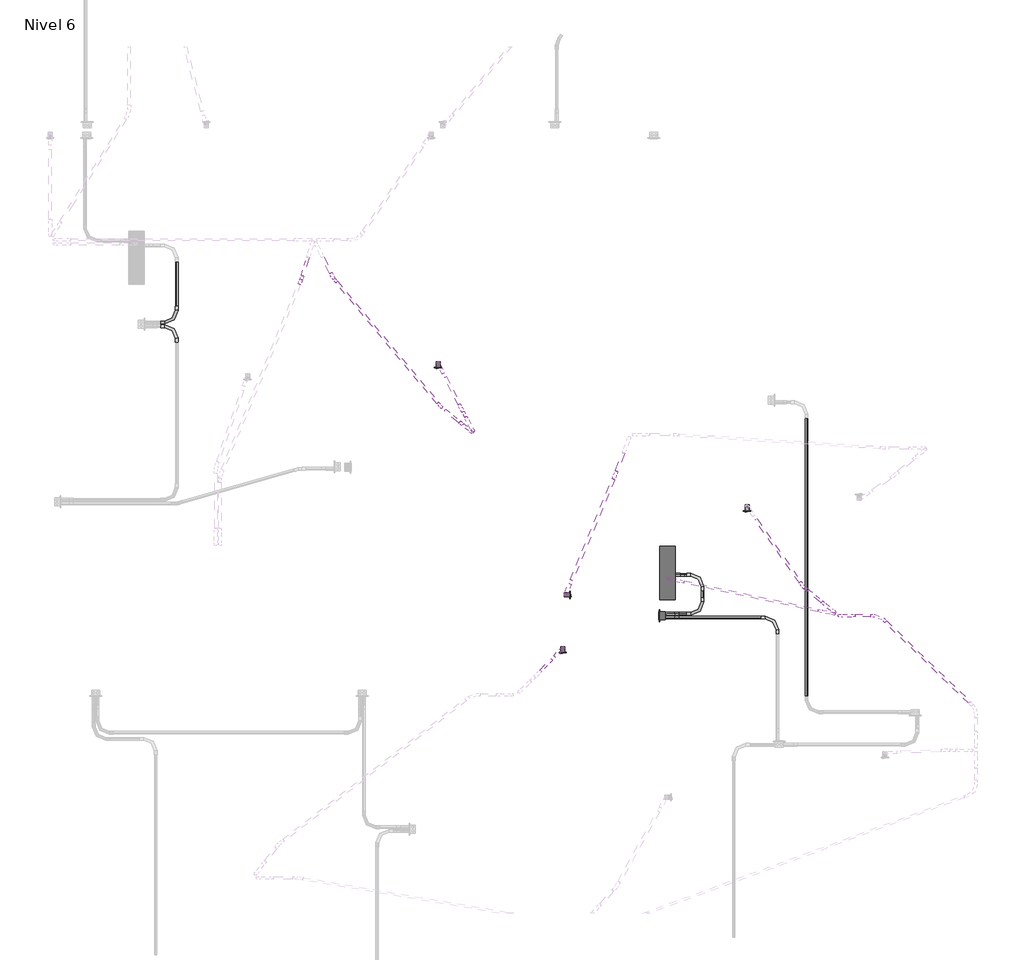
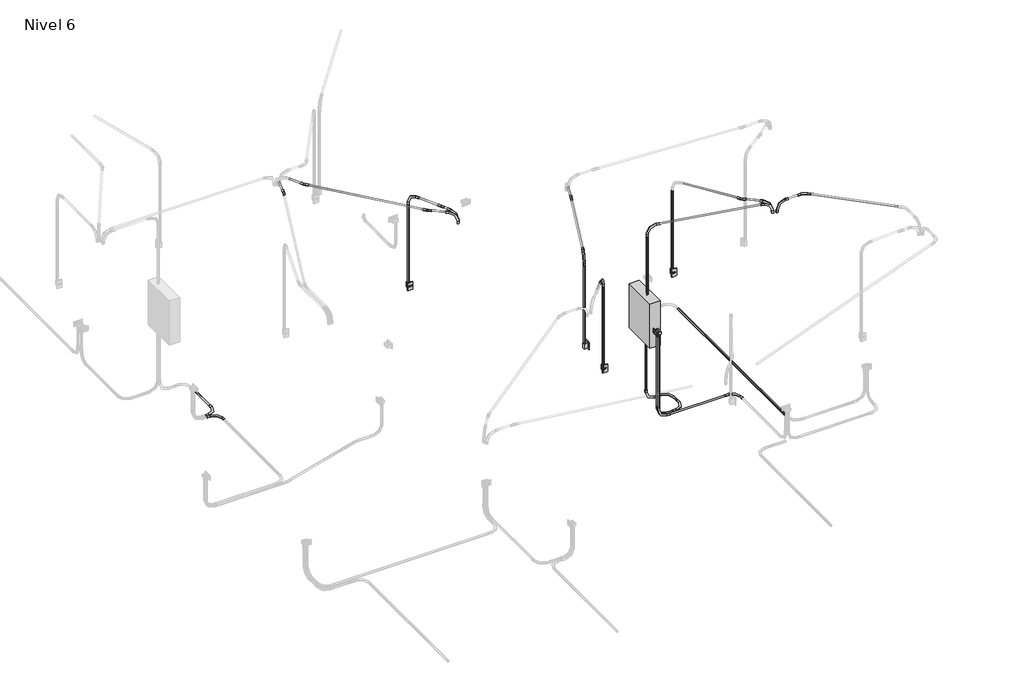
# One storey, part 5 of 9: 28 cable carrier segments, 24 cable carrier fittings, 4 switching devices, 2 proxies.
"""IFC4 building model written with IfcOpenShell, lengths in millimetres."""

from ifc_helpers import new_model, si_unit, point, frame, frame_2d, origin, place, context, project, spatial, circle_curve, trimmed, segment, composite_curve, outline, extrude, transform, mapped, element, save
from components import proxy_125_a_fe578df2, gfci_180f1b41, m_codo_de_tubo_extremo_liso_pvc_9da73e12, m_codo_de_tubo_extremo_liso_pvc_102f0f41, m_codo_de_tubo_extremo_liso_pvc_01378b5f, m_codo_de_tubo_extremo_liso_pvc_49654b31, m_codo_de_tubo_extremo_liso_pvc_d8cff154, m_codo_de_tubo_extremo_liso_pvc_0afefef4, m_codo_de_tubo_extremo_liso_pvc_1dd05dc2, m_codo_de_tubo_extremo_liso_pvc_d3c679f7, m_codo_de_tubo_extremo_liso_pvc_ebb1d42c, switching_device_22fed34b

model = new_model("IFC4")

# Units and contexts
model_context = context("Model", 3, world=origin())
ifc_project = project(units=[si_unit("LENGTHUNIT", "METRE", prefix="MILLI")], contexts=[model_context])

# Site, building, storey
site = spatial("IfcSite", under=ifc_project)
building = spatial("IfcBuilding", under=site)
storey = spatial("IfcBuildingStorey", under=building, Name="Nivel 6", Elevation=13400.0)

# Proxies
placement = place(None, origin())
proxy_125_a_shape = proxy_125_a_fe578df2(model_context)
element("IfcBuildingElementProxy", 1, Name="M_Cuadro de control de accesorios e iluminación - 480V MLO : 125 A", ObjectType="M_Cuadro de control de accesorios e iluminación - 480V MLO : 125 A", at=placement, inside=storey, context=model_context, shape_type="MappedRepresentation", body=[
    mapped(proxy_125_a_shape, transform((5394.6867828, 4905.2233288, 14226.1274047), x_axis=(0.0, 1.0, 0.0), y_axis=(0.0, 0.0, 1.0), z_axis=(1.0, 0.0, 0.0))),
])
gfci_shape = gfci_180f1b41(model_context)
element("IfcBuildingElementProxy", 2, Name="Tomacorriente doble 220V : GFCI", ObjectType="Tomacorriente doble 220V : GFCI", at=placement, inside=storey, context=model_context, shape_type="MappedRepresentation", body=[
    mapped(gfci_shape, transform((5244.6867828, 4499.5952087, 14600.0), x_axis=(0.0, 0.0, 1.0), y_axis=(0.0, 1.0, 0.0), z_axis=(-1.0, 0.0, 0.0))),
])

# Cable carrier fittings
m_codo_de_tubo_extremo_liso_pvc_shape = m_codo_de_tubo_extremo_liso_pvc_9da73e12(model_context)
element("IfcCableCarrierFitting", 3, ObjectType="M_Codo de tubo - Extremo liso - PVC : CODO POTENCIA", at=placement, inside=storey, context=model_context, shape_type="MappedRepresentation", body=[
    mapped(m_codo_de_tubo_extremo_liso_pvc_shape, transform((646.6378129, 7256.5585964, 13330.0), x_axis=(0.0, 1.0, 0.0), y_axis=(-1.0, 0.0, 0.0), z_axis=(0.0, 0.0, 1.0))),
])
element("IfcCableCarrierFitting", 4, ObjectType="M_Codo de tubo - Extremo liso - PVC : CODO POTENCIA", at=placement, inside=storey, context=model_context, shape_type="MappedRepresentation", body=[
    mapped(m_codo_de_tubo_extremo_liso_pvc_shape, transform((646.6378129, 7292.622236, 13330.0), x_axis=(1.0, 0.0, 0.0), y_axis=(0.0, 1.0, 0.0), z_axis=(0.0, 0.0, 1.0))),
])
element("IfcCableCarrierFitting", 5, ObjectType="M_Codo de tubo - Extremo liso - PVC : CODO POTENCIA", at=placement, inside=storey, context=model_context, shape_type="MappedRepresentation", body=[
    mapped(m_codo_de_tubo_extremo_liso_pvc_shape, transform((5274.3238946, 4481.5633889, 13330.0), x_axis=(0.0, 0.0, -1.0), y_axis=(1.0, 0.0, 0.0), z_axis=(0.0, -1.0, 0.0))),
])
element("IfcCableCarrierFitting", 6, ObjectType="M_Codo de tubo - Extremo liso - PVC : CODO POTENCIA", at=placement, inside=storey, context=model_context, shape_type="MappedRepresentation", body=[
    mapped(m_codo_de_tubo_extremo_liso_pvc_shape, transform((5274.3238946, 4517.6270285, 13330.0), x_axis=(0.0, 0.0, -1.0), y_axis=(1.0, 0.0, 0.0), z_axis=(0.0, -1.0, 0.0))),
])
element("IfcCableCarrierFitting", 7, ObjectType="M_Codo de tubo - Extremo liso - PVC : CODO POTENCIA", at=placement, inside=storey, context=model_context, shape_type="MappedRepresentation", body=[
    mapped(m_codo_de_tubo_extremo_liso_pvc_shape, transform((5654.3238946, 4517.6270285, 13330.0), x_axis=(1.0, 0.0, 0.0), y_axis=(0.0, 1.0, 0.0), z_axis=(0.0, 0.0, 1.0))),
])
element("IfcCableCarrierFitting", 8, ObjectType="M_Codo de tubo - Extremo liso - PVC : CODO POTENCIA", at=placement, inside=storey, context=model_context, shape_type="MappedRepresentation", body=[
    mapped(m_codo_de_tubo_extremo_liso_pvc_shape, transform((5654.3238946, 4887.6270285, 13330.0), x_axis=(0.0, 1.0, 0.0), y_axis=(-1.0, 0.0, 0.0), z_axis=(0.0, 0.0, 1.0))),
])
element("IfcCableCarrierFitting", 9, ObjectType="M_Codo de tubo - Extremo liso - PVC : CODO POTENCIA", at=placement, inside=storey, context=model_context, shape_type="MappedRepresentation", body=[
    mapped(m_codo_de_tubo_extremo_liso_pvc_shape, transform((6368.1967084, 4481.5633889, 13330.0), x_axis=(0.0, 1.0, 0.0), y_axis=(-1.0, 0.0, 0.0), z_axis=(0.0, 0.0, 1.0))),
])
element("IfcCableCarrierFitting", 10, ObjectType="M_Codo de tubo - Extremo liso - PVC : CODO POTENCIA", at=placement, inside=storey, context=model_context, shape_type="MappedRepresentation", body=[
    mapped(m_codo_de_tubo_extremo_liso_pvc_shape, transform((5329.3238946, 4887.6270285, 13330.0), x_axis=(-1.0, 0.0, 0.0), y_axis=(0.0, 0.0, 1.0), z_axis=(0.0, 1.0, 0.0))),
])
element("IfcCableCarrierFitting", 11, ObjectType="M_Codo de tubo - Extremo liso - PVC : CODO ILUMINACION", at=placement, inside=storey, context=model_context, shape_type="MappedRepresentation", body=[
    mapped(m_codo_de_tubo_extremo_liso_pvc_shape, transform((6957.7154, 4498.8966653, 15950.0), x_axis=(-1.0, 0.0, 0.0), y_axis=(0.0, 0.0, -1.0), z_axis=(0.0, -1.0, 0.0))),
])
element("IfcCableCarrierFitting", 12, ObjectType="M_Codo de tubo - Extremo liso - PVC : CODO ILUMINACION", at=placement, inside=storey, context=model_context, shape_type="MappedRepresentation", body=[
    mapped(m_codo_de_tubo_extremo_liso_pvc_shape, transform((3135.7051407, 6908.1388757, 15950.0), x_axis=(0.0, 0.0, 1.0), y_axis=(0.4488317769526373, -0.8936162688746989, 0.0), z_axis=(0.8936162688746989, 0.4488317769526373, 0.0))),
])
element("IfcCableCarrierFitting", 13, ObjectType="M_Codo de tubo - Extremo liso - PVC : CODO ILUMINACION", at=placement, inside=storey, context=model_context, shape_type="MappedRepresentation", body=[
    mapped(m_codo_de_tubo_extremo_liso_pvc_shape, transform((4346.8617051, 4696.5871883, 15950.0), x_axis=(0.0, 0.0, 1.0), y_axis=(0.38448172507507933, 0.9231326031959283, 0.0), z_axis=(-0.9231326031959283, 0.38448172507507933, 0.0))),
])
element("IfcCableCarrierFitting", 14, ObjectType="M_Codo de tubo - Extremo liso - PVC : CODO ILUMINACION", at=placement, inside=storey, context=model_context, shape_type="MappedRepresentation", body=[
    mapped(m_codo_de_tubo_extremo_liso_pvc_shape, transform((5327.9299979, 4851.245726, 15950.0), x_axis=(-0.9781476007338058, 0.2079116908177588, 0.0), y_axis=(0.0, 0.0, -1.0), z_axis=(-0.2079116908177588, -0.9781476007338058, 0.0))),
])
element("IfcCableCarrierFitting", 15, ObjectType="M_Codo de tubo - Extremo liso - PVC : CODO ILUMINACION", at=placement, inside=storey, context=model_context, shape_type="MappedRepresentation", body=[
    mapped(m_codo_de_tubo_extremo_liso_pvc_shape, transform((4323.1340933, 4193.1388756, 15950.0), x_axis=(0.0, 0.0, 1.0), y_axis=(-0.6843480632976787, -0.729155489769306, 0.0), z_axis=(0.729155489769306, -0.6843480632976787, 0.0))),
])
m_codo_de_tubo_extremo_liso_pvc_2_shape = m_codo_de_tubo_extremo_liso_pvc_102f0f41(model_context)
element("IfcCableCarrierFitting", 16, ObjectType="M_Codo de tubo - Extremo liso - PVC : CODO ILUMINACION", at=placement, inside=storey, context=model_context, shape_type="MappedRepresentation", body=[
    mapped(m_codo_de_tubo_extremo_liso_pvc_2_shape, transform((3459.9137982, 6247.1868437, 15950.0), x_axis=(0.7763363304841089, -0.6303188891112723, 0.0), y_axis=(0.0, 0.0, 1.0), z_axis=(-0.6303188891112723, -0.7763363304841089, 0.0))),
])
element("IfcCableCarrierFitting", 17, ObjectType="M_Codo de tubo - Extremo liso - PVC : CODO ILUMINACION", at=placement, inside=storey, context=model_context, shape_type="MappedRepresentation", body=[
    mapped(m_codo_de_tubo_extremo_liso_pvc_2_shape, transform((3469.5077333, 6258.1267018, 15950.0), x_axis=(0.46947156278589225, -0.8829475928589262, 0.0), y_axis=(0.0, 0.0, 1.0000000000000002), z_axis=(-0.8829475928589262, -0.46947156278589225, 0.0))),
])
element("IfcCableCarrierFitting", 18, ObjectType="M_Codo de tubo - Extremo liso - PVC : CODO ILUMINACION", at=placement, inside=storey, context=model_context, shape_type="MappedRepresentation", body=[
    mapped(m_codo_de_tubo_extremo_liso_pvc_2_shape, transform((6905.0951894, 4516.0089158, 15950.0), x_axis=(0.9781476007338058, -0.20791169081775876, 0.0), y_axis=(0.0, 0.0, 1.0), z_axis=(-0.20791169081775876, -0.9781476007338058, 0.0))),
])
element("IfcCableCarrierFitting", 19, ObjectType="M_Codo de tubo - Extremo liso - PVC : CODO ILUMINACION", at=placement, inside=storey, context=model_context, shape_type="MappedRepresentation", body=[
    mapped(m_codo_de_tubo_extremo_liso_pvc_2_shape, transform((6910.2839114, 4533.294303, 15950.0), x_axis=(0.7771459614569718, -0.6293203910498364, 0.0), y_axis=(0.0, 0.0, 1.0), z_axis=(-0.6293203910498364, -0.7771459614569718, 0.0))),
])
m_codo_de_tubo_extremo_liso_pvc_3_shape = m_codo_de_tubo_extremo_liso_pvc_01378b5f(model_context)
element("IfcCableCarrierFitting", 20, ObjectType="M_Codo de tubo - Extremo liso - PVC : CODO ILUMINACION", at=placement, inside=storey, context=model_context, shape_type="MappedRepresentation", body=[
    mapped(m_codo_de_tubo_extremo_liso_pvc_3_shape, transform((3164.1296562, 6487.3383404, 15950.0), x_axis=(0.6416802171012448, -0.7669722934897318, 0.0), y_axis=(0.7669722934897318, 0.6416802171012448, 0.0), z_axis=(0.0, 0.0, 1.0))),
])
m_codo_de_tubo_extremo_liso_pvc_4_shape = m_codo_de_tubo_extremo_liso_pvc_49654b31(model_context)
element("IfcCableCarrierFitting", 21, ObjectType="M_Codo de tubo - Extremo liso - PVC : CODO ILUMINACION", at=placement, inside=storey, context=model_context, shape_type="MappedRepresentation", body=[
    mapped(m_codo_de_tubo_extremo_liso_pvc_4_shape, transform((2136.0141424, 7716.1998397, 15950.0), x_axis=(0.4539904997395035, -0.89100652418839, 0.0), y_axis=(0.89100652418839, 0.4539904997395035, 0.0), z_axis=(0.0, 0.0, 1.0))),
])
m_codo_de_tubo_extremo_liso_pvc_5_shape = m_codo_de_tubo_extremo_liso_pvc_d8cff154(model_context)
element("IfcCableCarrierFitting", 22, ObjectType="M_Codo de tubo - Extremo liso - PVC : CODO ILUMINACION", at=placement, inside=storey, context=model_context, shape_type="MappedRepresentation", body=[
    mapped(m_codo_de_tubo_extremo_liso_pvc_5_shape, transform((3353.2431008, 6476.7886731, 15950.0), x_axis=(0.448831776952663, -0.8936162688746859, 0.0), y_axis=(0.8936162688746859, 0.448831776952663, 0.0), z_axis=(0.0, 0.0, 1.0))),
])
m_codo_de_tubo_extremo_liso_pvc_6_shape = m_codo_de_tubo_extremo_liso_pvc_0afefef4(model_context)
element("IfcCableCarrierFitting", 23, ObjectType="M_Codo de tubo - Extremo liso - PVC : CODO ILUMINACION", at=placement, inside=storey, context=model_context, shape_type="MappedRepresentation", body=[
    mapped(m_codo_de_tubo_extremo_liso_pvc_6_shape, transform((1829.9700345, 7695.4571865, 15950.0), x_axis=(0.3825908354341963, 0.9239178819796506, 0.0), y_axis=(-0.9239178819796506, 0.3825908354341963, 0.0), z_axis=(0.0, 0.0, 1.0))),
])
m_codo_de_tubo_extremo_liso_pvc_7_shape = m_codo_de_tubo_extremo_liso_pvc_1dd05dc2(model_context)
element("IfcCableCarrierFitting", 24, ObjectType="M_Codo de tubo - Extremo liso - PVC : CODO ILUMINACION", at=placement, inside=storey, context=model_context, shape_type="MappedRepresentation", body=[
    mapped(m_codo_de_tubo_extremo_liso_pvc_7_shape, transform((4820.8517635, 5836.8610372, 15950.0), x_axis=(0.38448172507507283, 0.923132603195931, 0.0), y_axis=(-0.923132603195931, 0.38448172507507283, 0.0), z_axis=(0.0, 0.0, 1.0))),
])
m_codo_de_tubo_extremo_liso_pvc_8_shape = m_codo_de_tubo_extremo_liso_pvc_d3c679f7(model_context)
element("IfcCableCarrierFitting", 25, ObjectType="M_Codo de tubo - Extremo liso - PVC : CODO ILUMINACION", at=placement, inside=storey, context=model_context, shape_type="MappedRepresentation", body=[
    mapped(m_codo_de_tubo_extremo_liso_pvc_8_shape, transform((6614.1913001, 4773.065372, 15950.0), x_axis=(0.5625711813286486, -0.826748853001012, 0.0), y_axis=(0.826748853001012, 0.5625711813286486, 0.0), z_axis=(0.0, 0.0, 1.0))),
])
m_codo_de_tubo_extremo_liso_pvc_9_shape = m_codo_de_tubo_extremo_liso_pvc_ebb1d42c(model_context)
element("IfcCableCarrierFitting", 26, ObjectType="M_Codo de tubo - Extremo liso - PVC : CODO ILUMINACION", at=placement, inside=storey, context=model_context, shape_type="MappedRepresentation", body=[
    mapped(m_codo_de_tubo_extremo_liso_pvc_9_shape, transform((7338.7154, 4498.8966653, 15950.0), x_axis=(-0.7205826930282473, 0.693369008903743, 0.0), y_axis=(-0.693369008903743, -0.7205826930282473, 0.0), z_axis=(0.0, 0.0, 1.0))),
])

# Cable carrier segments
element("IfcCableCarrierSegment", 27, ObjectType="PVC-SEL, POTENCIA", at=placement, inside=storey, context=model_context, shape_type="SweptSolid", body=[
    extrude(outline(composite_curve([segment(trimmed(circle_curve(frame_2d((13330.0, 646.6378129)), 11.71), [point((13330.0, 658.3478129))], [point((13341.71, 646.6378129))], False, "CARTESIAN"), True, "CONTINUOUS"), segment(trimmed(circle_curve(frame_2d((13330.0, 646.6378129)), 11.71), [point((13341.71, 646.6378129))], [point((13330.0, 634.9278129))], False, "CARTESIAN"), True, "CONTINUOUS"), segment(trimmed(circle_curve(frame_2d((13330.0, 646.6378129)), 11.71), [point((13330.0, 634.9278129))], [point((13318.29, 646.6378129))], False, "CARTESIAN"), True, "CONTINUOUS"), segment(trimmed(circle_curve(frame_2d((13330.0, 646.6378129)), 11.71), [point((13318.29, 646.6378129))], [point((13330.0, 658.3478129))], False, "CARTESIAN"), True, "CONTINUOUS")], self_intersect=False)), frame((0.0, 7445.022236, 0.0), z_axis=(0.0, 1.0, 0.0), x_axis=(0.0, 0.0, 1.0)), (0.0, 0.0, 1.0), 426.9478322),
])
element("IfcCableCarrierSegment", 28, ObjectType="PVC-SEL, POTENCIA", at=placement, inside=storey, context=model_context, shape_type="SweptSolid", body=[
    extrude(outline(composite_curve([segment(trimmed(circle_curve(frame_2d((4481.5633889, 13330.0)), 11.71), [point((4469.8533889, 13330.0))], [point((4481.5633889, 13341.71))], False, "CARTESIAN"), True, "CONTINUOUS"), segment(trimmed(circle_curve(frame_2d((4481.5633889, 13330.0)), 11.71), [point((4481.5633889, 13341.71))], [point((4493.2733889, 13330.0))], False, "CARTESIAN"), True, "CONTINUOUS"), segment(trimmed(circle_curve(frame_2d((4481.5633889, 13330.0)), 11.71), [point((4493.2733889, 13330.0))], [point((4481.5633889, 13318.29))], False, "CARTESIAN"), True, "CONTINUOUS"), segment(trimmed(circle_curve(frame_2d((4481.5633889, 13330.0)), 11.71), [point((4481.5633889, 13318.29))], [point((4469.8533889, 13330.0))], False, "CARTESIAN"), True, "CONTINUOUS")], self_intersect=False)), frame((5426.7238946, 0.0, 0.0), z_axis=(1.0, 0.0, 0.0), x_axis=(0.0, 1.0, 0.0)), (0.0, 0.0, 1.0), 789.0728138),
])
element("IfcCableCarrierSegment", 29, ObjectType="PVC-SEL, POTENCIA", at=placement, inside=storey, context=model_context, shape_type="SweptSolid", body=[
    extrude(outline(composite_curve([segment(trimmed(circle_curve(frame_2d((5274.3238946, 4481.5633889)), 11.71), [point((5286.0338946, 4481.5633889))], [point((5274.3238946, 4469.8533889))], False, "CARTESIAN"), True, "CONTINUOUS"), segment(trimmed(circle_curve(frame_2d((5274.3238946, 4481.5633889)), 11.71), [point((5274.3238946, 4469.8533889))], [point((5262.6138946, 4481.5633889))], False, "CARTESIAN"), True, "CONTINUOUS"), segment(trimmed(circle_curve(frame_2d((5274.3238946, 4481.5633889)), 11.71), [point((5262.6138946, 4481.5633889))], [point((5274.3238946, 4493.2733889))], False, "CARTESIAN"), True, "CONTINUOUS"), segment(trimmed(circle_curve(frame_2d((5274.3238946, 4481.5633889)), 11.71), [point((5274.3238946, 4493.2733889))], [point((5286.0338946, 4481.5633889))], False, "CARTESIAN"), True, "CONTINUOUS")], self_intersect=False)), frame((0.0, 0.0, 13482.4), z_axis=(0.0, 0.0, 1.0), x_axis=(1.0, 0.0, 0.0)), (0.0, 0.0, 1.0), 1097.3020537),
])
element("IfcCableCarrierSegment", 30, ObjectType="PVC-SEL, POTENCIA", at=placement, inside=storey, context=model_context, shape_type="SweptSolid", body=[
    extrude(outline(composite_curve([segment(trimmed(circle_curve(frame_2d((4517.6270285, 13330.0)), 11.71), [point((4505.9170285, 13330.0))], [point((4517.6270285, 13341.71))], False, "CARTESIAN"), True, "CONTINUOUS"), segment(trimmed(circle_curve(frame_2d((4517.6270285, 13330.0)), 11.71), [point((4517.6270285, 13341.71))], [point((4529.3370285, 13330.0))], False, "CARTESIAN"), True, "CONTINUOUS"), segment(trimmed(circle_curve(frame_2d((4517.6270285, 13330.0)), 11.71), [point((4529.3370285, 13330.0))], [point((4517.6270285, 13318.29))], False, "CARTESIAN"), True, "CONTINUOUS"), segment(trimmed(circle_curve(frame_2d((4517.6270285, 13330.0)), 11.71), [point((4517.6270285, 13318.29))], [point((4505.9170285, 13330.0))], False, "CARTESIAN"), True, "CONTINUOUS")], self_intersect=False)), frame((5426.7238946, 0.0, 0.0), z_axis=(1.0, 0.0, 0.0), x_axis=(0.0, 1.0, 0.0)), (0.0, 0.0, 1.0), 75.2),
])
element("IfcCableCarrierSegment", 31, ObjectType="PVC-SEL, POTENCIA", at=placement, inside=storey, context=model_context, shape_type="SweptSolid", body=[
    extrude(outline(composite_curve([segment(trimmed(circle_curve(frame_2d((5274.3238946, 4517.6270285)), 11.71), [point((5286.0338946, 4517.6270285))], [point((5274.3238946, 4505.9170285))], False, "CARTESIAN"), True, "CONTINUOUS"), segment(trimmed(circle_curve(frame_2d((5274.3238946, 4517.6270285)), 11.71), [point((5274.3238946, 4505.9170285))], [point((5262.6138946, 4517.6270285))], False, "CARTESIAN"), True, "CONTINUOUS"), segment(trimmed(circle_curve(frame_2d((5274.3238946, 4517.6270285)), 11.71), [point((5262.6138946, 4517.6270285))], [point((5274.3238946, 4529.3370285))], False, "CARTESIAN"), True, "CONTINUOUS"), segment(trimmed(circle_curve(frame_2d((5274.3238946, 4517.6270285)), 11.71), [point((5274.3238946, 4529.3370285))], [point((5286.0338946, 4517.6270285))], False, "CARTESIAN"), True, "CONTINUOUS")], self_intersect=False)), frame((0.0, 0.0, 13482.4), z_axis=(0.0, 0.0, 1.0), x_axis=(1.0, 0.0, 0.0)), (0.0, 0.0, 1.0), 1097.3020537),
])
element("IfcCableCarrierSegment", 32, ObjectType="PVC-SEL, POTENCIA", at=placement, inside=storey, context=model_context, shape_type="SweptSolid", body=[
    extrude(outline(composite_curve([segment(trimmed(circle_curve(frame_2d((13330.0, 5654.3238946)), 11.71), [point((13330.0, 5666.0338946))], [point((13341.71, 5654.3238946))], False, "CARTESIAN"), True, "CONTINUOUS"), segment(trimmed(circle_curve(frame_2d((13330.0, 5654.3238946)), 11.71), [point((13341.71, 5654.3238946))], [point((13330.0, 5642.6138946))], False, "CARTESIAN"), True, "CONTINUOUS"), segment(trimmed(circle_curve(frame_2d((13330.0, 5654.3238946)), 11.71), [point((13330.0, 5642.6138946))], [point((13318.29, 5654.3238946))], False, "CARTESIAN"), True, "CONTINUOUS"), segment(trimmed(circle_curve(frame_2d((13330.0, 5654.3238946)), 11.71), [point((13318.29, 5654.3238946))], [point((13330.0, 5666.0338946))], False, "CARTESIAN"), True, "CONTINUOUS")], self_intersect=False)), frame((0.0, 4670.0270285, 0.0), z_axis=(0.0, 1.0, 0.0), x_axis=(0.0, 0.0, 1.0)), (0.0, 0.0, 1.0), 65.2),
])
element("IfcCableCarrierSegment", 33, ObjectType="PVC-SEL, POTENCIA", at=placement, inside=storey, context=model_context, shape_type="SweptSolid", body=[
    extrude(outline(composite_curve([segment(trimmed(circle_curve(frame_2d((4887.6270285, 13330.0)), 11.71), [point((4899.3370285, 13330.0))], [point((4887.6270285, 13318.29))], False, "CARTESIAN"), True, "CONTINUOUS"), segment(trimmed(circle_curve(frame_2d((4887.6270285, 13330.0)), 11.71), [point((4887.6270285, 13318.29))], [point((4875.9170285, 13330.0))], False, "CARTESIAN"), True, "CONTINUOUS"), segment(trimmed(circle_curve(frame_2d((4887.6270285, 13330.0)), 11.71), [point((4875.9170285, 13330.0))], [point((4887.6270285, 13341.71))], False, "CARTESIAN"), True, "CONTINUOUS"), segment(trimmed(circle_curve(frame_2d((4887.6270285, 13330.0)), 11.71), [point((4887.6270285, 13341.71))], [point((4899.3370285, 13330.0))], False, "CARTESIAN"), True, "CONTINUOUS")], self_intersect=False)), frame((5481.7238946, 0.0, 0.0), z_axis=(1.0, 0.0, 0.0), x_axis=(0.0, 1.0, 0.0)), (0.0, 0.0, 1.0), 20.2),
])
element("IfcCableCarrierSegment", 34, ObjectType="PVC-SEL, POTENCIA", at=placement, inside=storey, context=model_context, shape_type="SweptSolid", body=[
    extrude(outline(composite_curve([segment(trimmed(circle_curve(frame_2d((13330.0, 6645.3628882)), 11.71), [point((13330.0, 6633.6528882))], [point((13318.29, 6645.3628882))], False, "CARTESIAN"), True, "CONTINUOUS"), segment(trimmed(circle_curve(frame_2d((13330.0, 6645.3628882)), 11.71), [point((13318.29, 6645.3628882))], [point((13330.0, 6657.0728882))], False, "CARTESIAN"), True, "CONTINUOUS"), segment(trimmed(circle_curve(frame_2d((13330.0, 6645.3628882)), 11.71), [point((13330.0, 6657.0728882))], [point((13341.71, 6645.3628882))], False, "CARTESIAN"), True, "CONTINUOUS"), segment(trimmed(circle_curve(frame_2d((13330.0, 6645.3628882)), 11.71), [point((13341.71, 6645.3628882))], [point((13330.0, 6633.6528882))], False, "CARTESIAN"), True, "CONTINUOUS")], self_intersect=False)), frame((0.0, 3731.6981273, 0.0), z_axis=(0.0, 1.0, 0.0), x_axis=(0.0, 0.0, 1.0)), (0.0, 0.0, 1.0), 2648.0757746),
])
element("IfcCableCarrierSegment", 35, ObjectType="PVC-SEL, POTENCIA", at=placement, inside=storey, context=model_context, shape_type="SweptSolid", body=[
    extrude(outline(composite_curve([segment(trimmed(circle_curve(frame_2d((5329.3238946, 4887.6270285)), 11.71), [point((5317.6138946, 4887.6270285))], [point((5329.3238946, 4899.3370285))], False, "CARTESIAN"), True, "CONTINUOUS"), segment(trimmed(circle_curve(frame_2d((5329.3238946, 4887.6270285)), 11.71), [point((5329.3238946, 4899.3370285))], [point((5341.0338946, 4887.6270285))], False, "CARTESIAN"), True, "CONTINUOUS"), segment(trimmed(circle_curve(frame_2d((5329.3238946, 4887.6270285)), 11.71), [point((5341.0338946, 4887.6270285))], [point((5329.3238946, 4875.9170285))], False, "CARTESIAN"), True, "CONTINUOUS"), segment(trimmed(circle_curve(frame_2d((5329.3238946, 4887.6270285)), 11.71), [point((5329.3238946, 4875.9170285))], [point((5317.6138946, 4887.6270285))], False, "CARTESIAN"), True, "CONTINUOUS")], self_intersect=False)), frame((0.0, 0.0, 13482.4), z_axis=(0.0, 0.0, 1.0), x_axis=(1.0, 0.0, 0.0)), (0.0, 0.0, 1.0), 817.6),
])
element("IfcCableCarrierSegment", 36, ObjectType="PVC-SEL ILUMINACION", at=placement, inside=storey, context=model_context, shape_type="SweptSolid", body=[
    extrude(outline(composite_curve([segment(trimmed(circle_curve(frame_2d((0.0, 11.71)), 11.71), [point((11.7099999, 11.71))], [point((0.0, 0.0))], False, "CARTESIAN"), True, "CONTINUOUS"), segment(trimmed(circle_curve(frame_2d((0.0, 11.71)), 11.71), [point((0.0, 0.0))], [point((-11.7100001, 11.71))], False, "CARTESIAN"), True, "CONTINUOUS"), segment(trimmed(circle_curve(frame_2d((0.0, 11.71)), 11.71), [point((-11.7100001, 11.71))], [point((0.0, 23.42))], False, "CARTESIAN"), True, "CONTINUOUS"), segment(trimmed(circle_curve(frame_2d((0.0, 11.71)), 11.71), [point((0.0, 23.42))], [point((11.7099999, 11.71))], False, "CARTESIAN"), True, "CONTINUOUS")], self_intersect=False)), frame((3132.613518, 6525.0082019, 15961.71), z_axis=(-0.6416802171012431, 0.7669722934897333, 0.0), x_axis=(0.7669722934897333, 0.6416802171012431, 0.0)), (0.0, 0.0, 1.0), 1502.069877),
])
element("IfcCableCarrierSegment", 37, ObjectType="PVC-SEL ILUMINACION", at=placement, inside=storey, context=model_context, shape_type="SweptSolid", body=[
    extrude(outline(composite_curve([segment(trimmed(circle_curve(frame_2d((0.0, -11.71)), 11.71), [point((-11.71, -11.71))], [point((0.0, 0.0))], False, "CARTESIAN"), True, "CONTINUOUS"), segment(trimmed(circle_curve(frame_2d((0.0, -11.71)), 11.71), [point((0.0, 0.0))], [point((11.71, -11.71))], False, "CARTESIAN"), True, "CONTINUOUS"), segment(trimmed(circle_curve(frame_2d((0.0, -11.71)), 11.71), [point((11.71, -11.71))], [point((0.0, -23.42))], False, "CARTESIAN"), True, "CONTINUOUS"), segment(trimmed(circle_curve(frame_2d((0.0, -11.71)), 11.71), [point((0.0, -23.42))], [point((-11.71, -11.71))], False, "CARTESIAN"), True, "CONTINUOUS")], self_intersect=False)), frame((2112.8428263, 7761.6761081, 15938.29), z_axis=(-0.4539904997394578, 0.8910065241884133, 0.0), x_axis=(0.8910065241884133, 0.4539904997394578, 0.0)), (0.0, 0.0, 1.0), 171.7686799),
])
element("IfcCableCarrierSegment", 38, ObjectType="PVC-SEL ILUMINACION", at=placement, inside=storey, context=model_context, shape_type="SweptSolid", body=[
    extrude(outline(composite_curve([segment(trimmed(circle_curve(frame_2d((0.0, 11.71)), 11.71), [point((11.71, 11.71))], [point((0.0, 0.0))], False, "CARTESIAN"), True, "CONTINUOUS"), segment(trimmed(circle_curve(frame_2d((0.0, 11.71)), 11.71), [point((0.0, 0.0))], [point((-11.71, 11.71))], False, "CARTESIAN"), True, "CONTINUOUS"), segment(trimmed(circle_curve(frame_2d((0.0, 11.71)), 11.71), [point((-11.71, 11.71))], [point((0.0, 23.42))], False, "CARTESIAN"), True, "CONTINUOUS"), segment(trimmed(circle_curve(frame_2d((0.0, 11.71)), 11.71), [point((0.0, 23.42))], [point((11.71, 11.71))], False, "CARTESIAN"), True, "CONTINUOUS")], self_intersect=False)), frame((3341.6001414, 6343.2474424, 15961.71), z_axis=(-0.7763363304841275, 0.6303188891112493, 0.0), x_axis=(0.6303188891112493, 0.7763363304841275, 0.0)), (0.0, 0.0, 1.0), 179.4849775),
])
element("IfcCableCarrierSegment", 39, ObjectType="PVC-SEL ILUMINACION", at=placement, inside=storey, context=model_context, shape_type="SweptSolid", body=[
    extrude(outline(composite_curve([segment(trimmed(circle_curve(frame_2d((0.0, 11.71)), 11.71), [point((11.7099999, 11.71))], [point((0.0, 0.0))], False, "CARTESIAN"), True, "CONTINUOUS"), segment(trimmed(circle_curve(frame_2d((0.0, 11.71)), 11.71), [point((0.0, 0.0))], [point((-11.71, 11.71))], False, "CARTESIAN"), True, "CONTINUOUS"), segment(trimmed(circle_curve(frame_2d((0.0, 11.71)), 11.71), [point((-11.71, 11.71))], [point((0.0, 23.42))], False, "CARTESIAN"), True, "CONTINUOUS"), segment(trimmed(circle_curve(frame_2d((0.0, 11.71)), 11.71), [point((0.0, 23.42))], [point((11.7099999, 11.71))], False, "CARTESIAN"), True, "CONTINUOUS")], self_intersect=False)), frame((3335.5465992, 6512.0221003, 15961.71), z_axis=(-0.4512592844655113, 0.8923928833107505, 0.0), x_axis=(0.8923928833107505, 0.4512592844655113, 0.0)), (0.0, 0.0, 1.0), 291.2726679),
])
element("IfcCableCarrierSegment", 40, ObjectType="PVC-SEL ILUMINACION", at=placement, inside=storey, context=model_context, shape_type="SweptSolid", body=[
    extrude(outline(composite_curve([segment(trimmed(circle_curve(frame_2d((3135.7051407, 6908.1388757)), 11.71), [point((3123.9951407, 6908.1388757))], [point((3135.7051407, 6919.8488757))], False, "CARTESIAN"), True, "CONTINUOUS"), segment(trimmed(circle_curve(frame_2d((3135.7051407, 6908.1388757)), 11.71), [point((3135.7051407, 6919.8488757))], [point((3147.4151407, 6908.1388757))], False, "CARTESIAN"), True, "CONTINUOUS"), segment(trimmed(circle_curve(frame_2d((3135.7051407, 6908.1388757)), 11.71), [point((3147.4151407, 6908.1388757))], [point((3135.7051407, 6896.4288757))], False, "CARTESIAN"), True, "CONTINUOUS"), segment(trimmed(circle_curve(frame_2d((3135.7051407, 6908.1388757)), 11.71), [point((3135.7051407, 6896.4288757))], [point((3123.9951407, 6908.1388757))], False, "CARTESIAN"), True, "CONTINUOUS")], self_intersect=False)), frame((0.0, 0.0, 14640.2227463), z_axis=(0.0, 0.0, 1.0), x_axis=(1.0, 0.0, 0.0)), (0.0, 0.0, 1.0), 1157.3772537),
])
element("IfcCableCarrierSegment", 41, ObjectType="PVC-SEL ILUMINACION", at=placement, inside=storey, context=model_context, shape_type="SweptSolid", body=[
    extrude(outline(composite_curve([segment(trimmed(circle_curve(frame_2d((0.0, 11.71)), 11.71), [point((11.71, 11.71))], [point((0.0, 0.0))], False, "CARTESIAN"), True, "CONTINUOUS"), segment(trimmed(circle_curve(frame_2d((0.0, 11.71)), 11.71), [point((0.0, 0.0))], [point((-11.71, 11.71))], False, "CARTESIAN"), True, "CONTINUOUS"), segment(trimmed(circle_curve(frame_2d((0.0, 11.71)), 11.71), [point((-11.71, 11.71))], [point((0.0, 23.42))], False, "CARTESIAN"), True, "CONTINUOUS"), segment(trimmed(circle_curve(frame_2d((0.0, 11.71)), 11.71), [point((0.0, 23.42))], [point((11.71, 11.71))], False, "CARTESIAN"), True, "CONTINUOUS")], self_intersect=False)), frame((3397.9602671, 6392.6879149, 15961.71), z_axis=(-0.4694715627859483, 0.8829475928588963, 0.0), x_axis=(0.8829475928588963, 0.4694715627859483, 0.0)), (0.0, 0.0, 1.0), 55.822084),
])
element("IfcCableCarrierSegment", 42, ObjectType="PVC-SEL ILUMINACION", at=placement, inside=storey, context=model_context, shape_type="SweptSolid", body=[
    extrude(outline(composite_curve([segment(trimmed(circle_curve(frame_2d((0.0, -11.71)), 11.71), [point((-11.71, -11.71))], [point((0.0, 0.0))], False, "CARTESIAN"), True, "CONTINUOUS"), segment(trimmed(circle_curve(frame_2d((0.0, -11.71)), 11.71), [point((0.0, 0.0))], [point((11.71, -11.71))], False, "CARTESIAN"), True, "CONTINUOUS"), segment(trimmed(circle_curve(frame_2d((0.0, -11.71)), 11.71), [point((11.71, -11.71))], [point((0.0, -23.42))], False, "CARTESIAN"), True, "CONTINUOUS"), segment(trimmed(circle_curve(frame_2d((0.0, -11.71)), 11.71), [point((0.0, -23.42))], [point((-11.71, -11.71))], False, "CARTESIAN"), True, "CONTINUOUS")], self_intersect=False)), frame((1842.7129037, 7737.1372337, 15938.29), z_axis=(0.2923717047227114, 0.9563047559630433, 0.0), x_axis=(0.9563047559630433, -0.2923717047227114, 0.0)), (0.0, 0.0, 1.0), 185.0155183),
])
element("IfcCableCarrierSegment", 43, ObjectType="PVC-SEL ILUMINACION", at=placement, inside=storey, context=model_context, shape_type="SweptSolid", body=[
    extrude(outline(composite_curve([segment(trimmed(circle_curve(frame_2d((0.0, -11.71)), 11.71), [point((-11.71, -11.71))], [point((0.0, 0.0))], False, "CARTESIAN"), True, "CONTINUOUS"), segment(trimmed(circle_curve(frame_2d((0.0, -11.71)), 11.71), [point((0.0, 0.0))], [point((11.71, -11.71))], False, "CARTESIAN"), True, "CONTINUOUS"), segment(trimmed(circle_curve(frame_2d((0.0, -11.71)), 11.71), [point((11.71, -11.71))], [point((0.0, -23.42))], False, "CARTESIAN"), True, "CONTINUOUS"), segment(trimmed(circle_curve(frame_2d((0.0, -11.71)), 11.71), [point((0.0, -23.42))], [point((-11.71, -11.71))], False, "CARTESIAN"), True, "CONTINUOUS")], self_intersect=False)), frame((4405.45672, 4837.272597, 15938.29), z_axis=(0.38372115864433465, 0.9234490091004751, 0.0), x_axis=(0.9234490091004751, -0.38372115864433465, 0.0)), (0.0, 0.0, 1.0), 1042.5175136),
])
element("IfcCableCarrierSegment", 44, ObjectType="PVC-SEL ILUMINACION", at=placement, inside=storey, context=model_context, shape_type="SweptSolid", body=[
    extrude(outline(composite_curve([segment(trimmed(circle_curve(frame_2d((4346.8617051, 4696.5871883)), 11.71), [point((4335.1517051, 4696.5871883))], [point((4346.8617051, 4708.2971883))], False, "CARTESIAN"), True, "CONTINUOUS"), segment(trimmed(circle_curve(frame_2d((4346.8617051, 4696.5871883)), 11.71), [point((4346.8617051, 4708.2971883))], [point((4358.5717051, 4696.5871883))], False, "CARTESIAN"), True, "CONTINUOUS"), segment(trimmed(circle_curve(frame_2d((4346.8617051, 4696.5871883)), 11.71), [point((4358.5717051, 4696.5871883))], [point((4346.8617051, 4684.8771883))], False, "CARTESIAN"), True, "CONTINUOUS"), segment(trimmed(circle_curve(frame_2d((4346.8617051, 4696.5871883)), 11.71), [point((4346.8617051, 4684.8771883))], [point((4335.1517051, 4696.5871883))], False, "CARTESIAN"), True, "CONTINUOUS")], self_intersect=False)), frame((0.0, 0.0, 14640.2227463), z_axis=(0.0, 0.0, 1.0), x_axis=(1.0, 0.0, 0.0)), (0.0, 0.0, 1.0), 1157.3772537),
])
element("IfcCableCarrierSegment", 45, ObjectType="PVC-SEL ILUMINACION", at=placement, inside=storey, context=model_context, shape_type="SweptSolid", body=[
    extrude(outline(composite_curve([segment(trimmed(circle_curve(frame_2d((0.0, -11.71)), 11.71), [point((-11.7099999, -11.71))], [point((0.0, 0.0))], False, "CARTESIAN"), True, "CONTINUOUS"), segment(trimmed(circle_curve(frame_2d((0.0, -11.71)), 11.71), [point((0.0, 0.0))], [point((11.71, -11.71))], False, "CARTESIAN"), True, "CONTINUOUS"), segment(trimmed(circle_curve(frame_2d((0.0, -11.71)), 11.71), [point((11.71, -11.71))], [point((0.0, -23.42))], False, "CARTESIAN"), True, "CONTINUOUS"), segment(trimmed(circle_curve(frame_2d((0.0, -11.71)), 11.71), [point((0.0, -23.42))], [point((-11.7099999, -11.71))], False, "CARTESIAN"), True, "CONTINUOUS")], self_intersect=False)), frame((4835.0110631, 5874.2147889, 15938.29), z_axis=(0.35444928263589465, 0.935075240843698, 0.0), x_axis=(0.935075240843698, -0.35444928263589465, 0.0)), (0.0, 0.0, 1.0), 188.652678),
])
element("IfcCableCarrierSegment", 46, ObjectType="PVC-SEL ILUMINACION", at=placement, inside=storey, context=model_context, shape_type="SweptSolid", body=[
    extrude(outline(composite_curve([segment(trimmed(circle_curve(frame_2d((0.0, 11.71)), 11.71), [point((11.71, 11.71))], [point((0.0, 0.0))], False, "CARTESIAN"), True, "CONTINUOUS"), segment(trimmed(circle_curve(frame_2d((0.0, 11.71)), 11.71), [point((0.0, 0.0))], [point((-11.71, 11.71))], False, "CARTESIAN"), True, "CONTINUOUS"), segment(trimmed(circle_curve(frame_2d((0.0, 11.71)), 11.71), [point((-11.71, 11.71))], [point((0.0, 23.42))], False, "CARTESIAN"), True, "CONTINUOUS"), segment(trimmed(circle_curve(frame_2d((0.0, 11.71)), 11.71), [point((0.0, 23.42))], [point((11.71, 11.71))], False, "CARTESIAN"), True, "CONTINUOUS")], self_intersect=False)), frame((6756.025495, 4547.6946574, 15961.71), z_axis=(-0.9781476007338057, 0.20791169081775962, 0.0), x_axis=(0.20791169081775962, 0.9781476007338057, 0.0)), (0.0, 0.0, 1.0), 1307.6),
])
element("IfcCableCarrierSegment", 47, ObjectType="PVC-SEL ILUMINACION", at=placement, inside=storey, context=model_context, shape_type="SweptSolid", body=[
    extrude(outline(composite_curve([segment(trimmed(circle_curve(frame_2d((5327.9299979, 4851.245726)), 11.71), [point((5316.2199979, 4851.245726))], [point((5327.9299979, 4862.955726))], False, "CARTESIAN"), True, "CONTINUOUS"), segment(trimmed(circle_curve(frame_2d((5327.9299979, 4851.245726)), 11.71), [point((5327.9299979, 4862.955726))], [point((5339.6399979, 4851.245726))], False, "CARTESIAN"), True, "CONTINUOUS"), segment(trimmed(circle_curve(frame_2d((5327.9299979, 4851.245726)), 11.71), [point((5339.6399979, 4851.245726))], [point((5327.9299979, 4839.535726))], False, "CARTESIAN"), True, "CONTINUOUS"), segment(trimmed(circle_curve(frame_2d((5327.9299979, 4851.245726)), 11.71), [point((5327.9299979, 4839.535726))], [point((5316.2199979, 4851.245726))], False, "CARTESIAN"), True, "CONTINUOUS")], self_intersect=False)), frame((0.0, 0.0, 14900.0), z_axis=(0.0, 0.0, 1.0), x_axis=(1.0, 0.0, 0.0)), (0.0, 0.0, 1.0), 897.6),
])
element("IfcCableCarrierSegment", 48, ObjectType="PVC-SEL ILUMINACION", at=placement, inside=storey, context=model_context, shape_type="SweptSolid", body=[
    extrude(outline(composite_curve([segment(trimmed(circle_curve(frame_2d((0.0, 11.71)), 11.71), [point((11.71, 11.71))], [point((0.0, 0.0))], False, "CARTESIAN"), True, "CONTINUOUS"), segment(trimmed(circle_curve(frame_2d((0.0, 11.71)), 11.71), [point((0.0, 0.0))], [point((-11.71, 11.71))], False, "CARTESIAN"), True, "CONTINUOUS"), segment(trimmed(circle_curve(frame_2d((0.0, 11.71)), 11.71), [point((-11.71, 11.71))], [point((0.0, 23.42))], False, "CARTESIAN"), True, "CONTINUOUS"), segment(trimmed(circle_curve(frame_2d((0.0, 11.71)), 11.71), [point((0.0, 23.42))], [point((11.71, 11.71))], False, "CARTESIAN"), True, "CONTINUOUS")], self_intersect=False)), frame((6583.2814405, 4818.4901854, 15961.71), z_axis=(-0.573804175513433, 0.8189925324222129, 0.0), x_axis=(0.8189925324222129, 0.573804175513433, 0.0)), (0.0, 0.0, 1.0), 730.9616893),
])
element("IfcCableCarrierSegment", 49, ObjectType="PVC-SEL ILUMINACION", at=placement, inside=storey, context=model_context, shape_type="SweptSolid", body=[
    extrude(outline(composite_curve([segment(trimmed(circle_curve(frame_2d((6078.116723, 5543.1388756)), 11.71), [point((6066.406723, 5543.1388756))], [point((6078.116723, 5554.8488756))], False, "CARTESIAN"), True, "CONTINUOUS"), segment(trimmed(circle_curve(frame_2d((6078.116723, 5543.1388756)), 11.71), [point((6078.116723, 5554.8488756))], [point((6089.826723, 5543.1388756))], False, "CARTESIAN"), True, "CONTINUOUS"), segment(trimmed(circle_curve(frame_2d((6078.116723, 5543.1388756)), 11.71), [point((6089.826723, 5543.1388756))], [point((6078.116723, 5531.4288756))], False, "CARTESIAN"), True, "CONTINUOUS"), segment(trimmed(circle_curve(frame_2d((6078.116723, 5543.1388756)), 11.71), [point((6078.116723, 5531.4288756))], [point((6066.406723, 5543.1388756))], False, "CARTESIAN"), True, "CONTINUOUS")], self_intersect=False)), frame((0.0, 0.0, 14640.2227463), z_axis=(0.0, 0.0, 1.0), x_axis=(1.0, 0.0, 0.0)), (0.0, 0.0, 1.0), 1157.3772537),
])
element("IfcCableCarrierSegment", 50, ObjectType="PVC-SEL ILUMINACION", at=placement, inside=storey, context=model_context, shape_type="SweptSolid", body=[
    extrude(outline(composite_curve([segment(trimmed(circle_curve(frame_2d((0.0, 11.71)), 11.71), [point((11.71, 11.71))], [point((0.0, 0.0))], False, "CARTESIAN"), True, "CONTINUOUS"), segment(trimmed(circle_curve(frame_2d((0.0, 11.71)), 11.71), [point((0.0, 0.0))], [point((-11.71, 11.71))], False, "CARTESIAN"), True, "CONTINUOUS"), segment(trimmed(circle_curve(frame_2d((0.0, 11.71)), 11.71), [point((-11.71, 11.71))], [point((0.0, 23.42))], False, "CARTESIAN"), True, "CONTINUOUS"), segment(trimmed(circle_curve(frame_2d((0.0, 11.71)), 11.71), [point((0.0, 23.42))], [point((11.71, 11.71))], False, "CARTESIAN"), True, "CONTINUOUS")], self_intersect=False)), frame((6791.8468669, 4629.2027306, 15961.71), z_axis=(-0.7771459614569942, 0.6293203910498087, 0.0), x_axis=(0.6293203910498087, 0.7771459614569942, 0.0)), (0.0, 0.0, 1.0), 173.6560913),
])
element("IfcCableCarrierSegment", 51, ObjectType="PVC-SEL ILUMINACION", at=placement, inside=storey, context=model_context, shape_type="SweptSolid", body=[
    extrude(outline(composite_curve([segment(trimmed(circle_curve(frame_2d((0.0, -11.71)), 11.71), [point((-11.71, -11.71))], [point((0.0, 0.0))], False, "CARTESIAN"), True, "CONTINUOUS"), segment(trimmed(circle_curve(frame_2d((0.0, -11.71)), 11.71), [point((0.0, 0.0))], [point((11.7100001, -11.71))], False, "CARTESIAN"), True, "CONTINUOUS"), segment(trimmed(circle_curve(frame_2d((0.0, -11.71)), 11.71), [point((11.7100001, -11.71))], [point((0.0, -23.42))], False, "CARTESIAN"), True, "CONTINUOUS"), segment(trimmed(circle_curve(frame_2d((0.0, -11.71)), 11.71), [point((0.0, -23.42))], [point((-11.71, -11.71))], False, "CARTESIAN"), True, "CONTINUOUS")], self_intersect=False)), frame((8197.2042198, 3672.8297227, 15938.29), z_axis=(-0.7205826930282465, 0.693369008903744, 0.0), x_axis=(0.693369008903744, 0.7205826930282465, 0.0)), (0.0, 0.0, 1.0), 1107.220218),
])
element("IfcCableCarrierSegment", 52, ObjectType="PVC-SEL ILUMINACION", at=placement, inside=storey, context=model_context, shape_type="SweptSolid", body=[
    extrude(outline(composite_curve([segment(trimmed(circle_curve(frame_2d((4498.8966653, 15950.0)), 11.71), [point((4487.1866653, 15950.0))], [point((4498.8966653, 15961.71))], False, "CARTESIAN"), True, "CONTINUOUS"), segment(trimmed(circle_curve(frame_2d((4498.8966653, 15950.0)), 11.71), [point((4498.8966653, 15961.71))], [point((4510.6066653, 15950.0))], False, "CARTESIAN"), True, "CONTINUOUS"), segment(trimmed(circle_curve(frame_2d((4498.8966653, 15950.0)), 11.71), [point((4510.6066653, 15950.0))], [point((4498.8966653, 15938.29))], False, "CARTESIAN"), True, "CONTINUOUS"), segment(trimmed(circle_curve(frame_2d((4498.8966653, 15950.0)), 11.71), [point((4498.8966653, 15938.29))], [point((4487.1866653, 15950.0))], False, "CARTESIAN"), True, "CONTINUOUS")], self_intersect=False)), frame((7110.1154, 0.0, 0.0), z_axis=(1.0, 0.0, 0.0), x_axis=(0.0, 1.0, 0.0)), (0.0, 0.0, 1.0), 144.438815),
])
element("IfcCableCarrierSegment", 53, ObjectType="PVC-SEL ILUMINACION", at=placement, inside=storey, context=model_context, shape_type="SweptSolid", body=[
    extrude(outline(composite_curve([segment(trimmed(circle_curve(frame_2d((0.0, 11.71)), 11.71), [point((11.71, 11.71))], [point((0.0, 0.0))], False, "CARTESIAN"), True, "CONTINUOUS"), segment(trimmed(circle_curve(frame_2d((0.0, 11.71)), 11.71), [point((0.0, 0.0))], [point((-11.71, 11.71))], False, "CARTESIAN"), True, "CONTINUOUS"), segment(trimmed(circle_curve(frame_2d((0.0, 11.71)), 11.71), [point((-11.71, 11.71))], [point((0.0, 23.42))], False, "CARTESIAN"), True, "CONTINUOUS"), segment(trimmed(circle_curve(frame_2d((0.0, 11.71)), 11.71), [point((0.0, 23.42))], [point((11.71, 11.71))], False, "CARTESIAN"), True, "CONTINUOUS")], self_intersect=False)), frame((4112.8573647, 3972.7081151, 15961.71), z_axis=(0.6961017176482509, 0.7179431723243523, 0.0), x_axis=(0.7179431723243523, -0.6961017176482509, 0.0)), (0.0, 0.0, 1.0), 152.2508579),
])
element("IfcCableCarrierSegment", 54, ObjectType="PVC-SEL ILUMINACION", at=placement, inside=storey, context=model_context, shape_type="SweptSolid", body=[
    extrude(outline(composite_curve([segment(trimmed(circle_curve(frame_2d((4323.1340933, 4193.1388756)), 11.71), [point((4311.4240933, 4193.1388756))], [point((4323.1340933, 4204.8488756))], False, "CARTESIAN"), True, "CONTINUOUS"), segment(trimmed(circle_curve(frame_2d((4323.1340933, 4193.1388756)), 11.71), [point((4323.1340933, 4204.8488756))], [point((4334.8440933, 4193.1388756))], False, "CARTESIAN"), True, "CONTINUOUS"), segment(trimmed(circle_curve(frame_2d((4323.1340933, 4193.1388756)), 11.71), [point((4334.8440933, 4193.1388756))], [point((4323.1340933, 4181.4288756))], False, "CARTESIAN"), True, "CONTINUOUS"), segment(trimmed(circle_curve(frame_2d((4323.1340933, 4193.1388756)), 11.71), [point((4323.1340933, 4181.4288756))], [point((4311.4240933, 4193.1388756))], False, "CARTESIAN"), True, "CONTINUOUS")], self_intersect=False)), frame((0.0, 0.0, 14640.2227463), z_axis=(0.0, 0.0, 1.0), x_axis=(1.0, 0.0, 0.0)), (0.0, 0.0, 1.0), 1157.3772537),
])

# Switching devices
switching_device_shape = switching_device_22fed34b(model_context)
element("IfcSwitchingDevice", 55, ObjectType="Interruptor : Tridireccional", at=placement, inside=storey, context=model_context, shape_type="MappedRepresentation", body=[
    mapped(switching_device_shape, transform((3135.7549863, 6865.0, 14600.0), x_axis=(1.0, 0.0, 0.0), y_axis=(0.0, 0.0, 1.0), z_axis=(0.0, -1.0, 0.0))),
])
element("IfcSwitchingDevice", 56, ObjectType="Interruptor : Tridireccional", at=placement, inside=storey, context=model_context, shape_type="MappedRepresentation", body=[
    mapped(switching_device_shape, transform((4390.0005808, 4696.6370339, 14600.0), x_axis=(0.0, 1.0, 0.0), y_axis=(0.0, 0.0, 1.0), z_axis=(1.0, 0.0, 0.0))),
])
element("IfcSwitchingDevice", 57, ObjectType="Interruptor : Tridireccional", at=placement, inside=storey, context=model_context, shape_type="MappedRepresentation", body=[
    mapped(switching_device_shape, transform((4323.1839389, 4150.0, 14600.0), x_axis=(1.0, 0.0, 0.0), y_axis=(0.0, 0.0, 1.0), z_axis=(0.0, -1.0, 0.0))),
])
element("IfcSwitchingDevice", 58, ObjectType="Interruptor : Tridireccional", at=placement, inside=storey, context=model_context, shape_type="MappedRepresentation", body=[
    mapped(switching_device_shape, transform((6078.1665686, 5500.0, 14600.0), x_axis=(1.0, 0.0, 0.0), y_axis=(0.0, 0.0, 1.0), z_axis=(0.0, -1.0, 0.0))),
])

save(model, "model.ifc")
